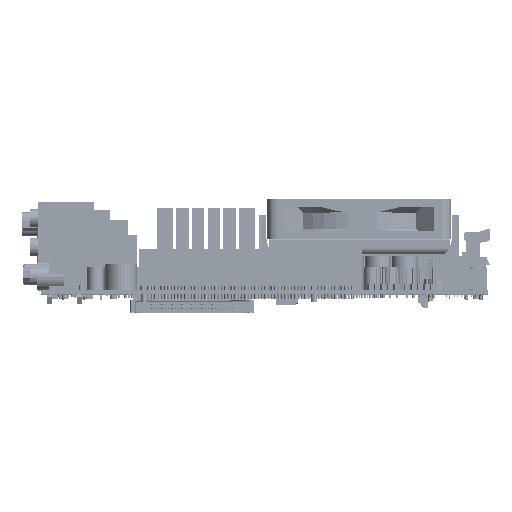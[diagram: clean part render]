
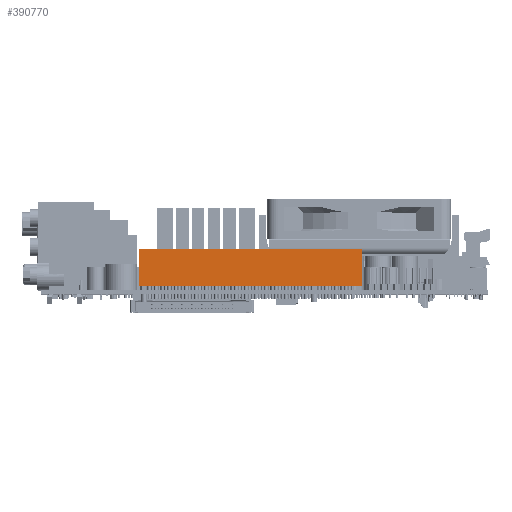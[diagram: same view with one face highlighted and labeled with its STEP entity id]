
A CAD part, top view. The second image highlights one B-rep face of the part: STEP entity #390770.
In plain terms, the highlighted planar face has unit normal (0, 0, 1).
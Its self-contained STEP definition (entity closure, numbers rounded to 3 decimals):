
#54614 = EDGE_CURVE ( 'NONE', #414124, #414121, #215202, .T. ) ;
#54637 = EDGE_CURVE ( 'NONE', #414121, #414129, #215234, .T. ) ;
#54673 = EDGE_CURVE ( 'NONE', #414129, #414135, #215274, .T. ) ;
#54680 = EDGE_CURVE ( 'NONE', #414135, #414124, #215285, .T. ) ;
#63754 = FACE_OUTER_BOUND ( 'NONE', #438491, .T. ) ;
#66576 = AXIS2_PLACEMENT_3D ( 'NONE', #72499, #72500, #72502 ) ;
#72498 = PLANE ( 'NONE',  #66576 ) ;
#72499 = CARTESIAN_POINT ( 'NONE',  ( -18.29, 0., 4.51 ) ) ;
#72500 = DIRECTION ( 'NONE',  ( 0., 0., 1. ) ) ;
#72502 = DIRECTION ( 'NONE',  ( 1., 0., 0. ) ) ;
#90233 = ORIENTED_EDGE ( 'NONE', *, *, #54673, .T. ) ;
#90235 = ORIENTED_EDGE ( 'NONE', *, *, #54680, .T. ) ;
#90239 = ORIENTED_EDGE ( 'NONE', *, *, #54614, .T. ) ;
#90243 = ORIENTED_EDGE ( 'NONE', *, *, #54637, .T. ) ;
#215202 = LINE ( 'NONE', #222381, #215204 ) ;
#215204 = VECTOR ( 'NONE', #222383, 1000. ) ;
#215234 = LINE ( 'NONE', #222418, #215236 ) ;
#215236 = VECTOR ( 'NONE', #222421, 1000. ) ;
#215274 = LINE ( 'NONE', #222469, #215277 ) ;
#215277 = VECTOR ( 'NONE', #222471, 1000. ) ;
#215285 = LINE ( 'NONE', #222481, #215287 ) ;
#215287 = VECTOR ( 'NONE', #223708, 1000. ) ;
#222381 = CARTESIAN_POINT ( 'NONE',  ( -18.29, 0., 4.51 ) ) ;
#222383 = DIRECTION ( 'NONE',  ( 0., -1., 0. ) ) ;
#222418 = CARTESIAN_POINT ( 'NONE',  ( -18.29, -13.99, 4.51 ) ) ;
#222421 = DIRECTION ( 'NONE',  ( 1., 0., 0. ) ) ;
#222469 = CARTESIAN_POINT ( 'NONE',  ( 66.55, 0., 4.51 ) ) ;
#222471 = DIRECTION ( 'NONE',  ( 0., 1., 0. ) ) ;
#222481 = CARTESIAN_POINT ( 'NONE',  ( -18.29, 0., 4.51 ) ) ;
#223708 = DIRECTION ( 'NONE',  ( -1., 0., 0. ) ) ;
#247703 = CARTESIAN_POINT ( 'NONE',  ( -18.29, -13.99, 4.51 ) ) ;
#247705 = CARTESIAN_POINT ( 'NONE',  ( -18.29, 0., 4.51 ) ) ;
#247716 = CARTESIAN_POINT ( 'NONE',  ( 66.55, -13.99, 4.51 ) ) ;
#247730 = CARTESIAN_POINT ( 'NONE',  ( 66.55, 0., 4.51 ) ) ;
#390770 = ADVANCED_FACE ( 'NONE', ( #63754 ), #72498, .T. ) ;
#414121 = VERTEX_POINT ( 'NONE', #247703 ) ;
#414124 = VERTEX_POINT ( 'NONE', #247705 ) ;
#414129 = VERTEX_POINT ( 'NONE', #247716 ) ;
#414135 = VERTEX_POINT ( 'NONE', #247730 ) ;
#438491 = EDGE_LOOP ( 'NONE', ( #90233, #90235, #90239, #90243 ) ) ;
